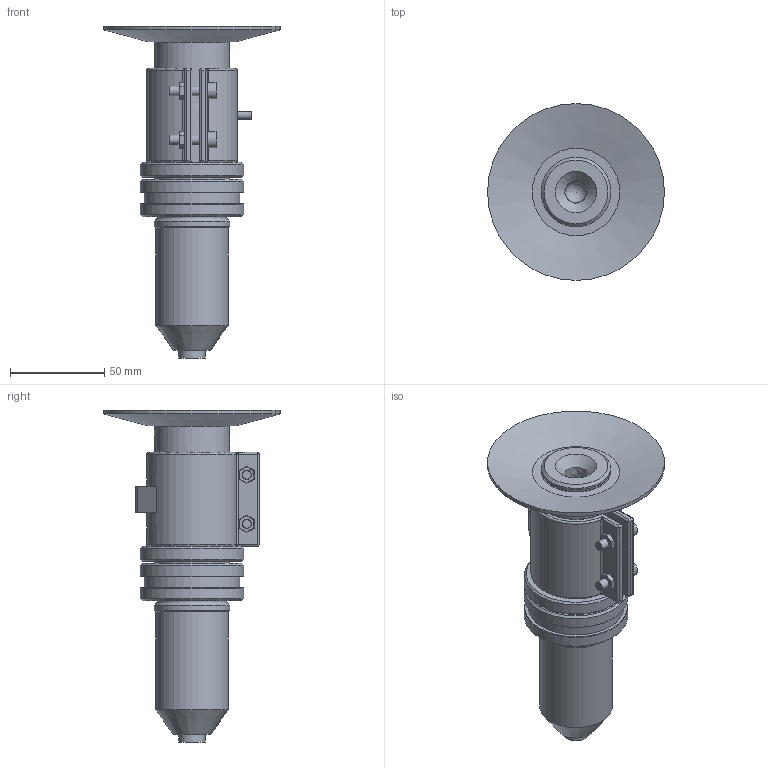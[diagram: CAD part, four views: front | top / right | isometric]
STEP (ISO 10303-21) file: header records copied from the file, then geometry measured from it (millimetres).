
FILE_DESCRIPTION(('STEP AP214'),'1');
FILE_NAME('IPS1000-C.stp','2018-06-14T08:20:02',(' '),(' '),'Spatial InterOp 3D',' ',' ');
FILE_SCHEMA(('AUTOMOTIVE_DESIGN { 1 0 10303 214 1 1 1 1 }'));
Length unit declared in the file: millimetre
Products named in the file (1): 1
Bounding box: 94 x 94 x 176.52 mm (x, y, z)
Volume: 234642.8 mm3; surface area: 83575.1 mm2
Topology: 9 solids, 9 shells, 208 faces, 441 edges, 266 vertices
Faces by surface type: plane 95, cylinder 56, cone 37, revolution 10, torus 6, bspline 4
Full cylindrical faces by diameter (mm): 3 x1, 4 x1, 4.2 x2, 5 x3, 5.5 x4, 6.55 x1, 8.5 x2, 9.1 x1, 9.5 x1, 9.51 x1, 14.5 x1, 14.52 x1, 30 x2, 35 x1, 37 x3, 38.5 x1, 39.8 x1, 40 x3, 51 x1, 55 x3, 94 x1
Entity records: 7559 total; most frequent: CARTESIAN_POINT 1762, DIRECTION 890, ORIENTED_EDGE 666, AXIS2_PLACEMENT_3D 357, EDGE_CURVE 333, EDGE_LOOP 328, FACE_OUTER_BOUND 253, VERTEX_POINT 250
